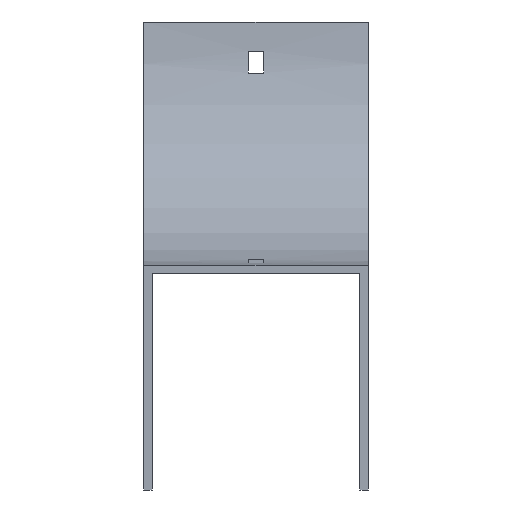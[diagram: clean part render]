
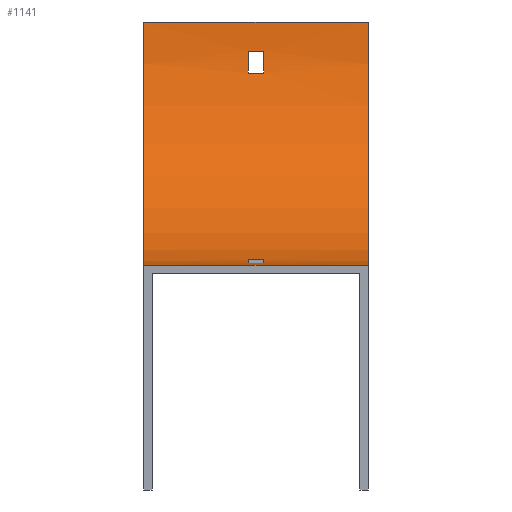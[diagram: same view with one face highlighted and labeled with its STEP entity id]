
A CAD part, front view. The second image highlights one B-rep face of the part: STEP entity #1141.
In plain terms, the highlighted cylindrical face has radius 100 mm (diameter 200 mm), a partial arc.
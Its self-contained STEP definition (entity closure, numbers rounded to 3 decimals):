
#9 = EDGE_LOOP ( 'NONE', ( #139, #1682, #656, #800 ) ) ;
#32 = CARTESIAN_POINT ( 'NONE',  ( -3.25, -100., 0. ) ) ;
#43 = ORIENTED_EDGE ( 'NONE', *, *, #1060, .T. ) ;
#115 = ORIENTED_EDGE ( 'NONE', *, *, #844, .F. ) ;
#139 = ORIENTED_EDGE ( 'NONE', *, *, #1472, .T. ) ;
#175 = DIRECTION ( 'NONE',  ( 0., 0., -1. ) ) ;
#183 = EDGE_CURVE ( 'NONE', #243, #921, #1309, .T. ) ;
#227 = VECTOR ( 'NONE', #932, 1000. ) ;
#243 = VERTEX_POINT ( 'NONE', #909 ) ;
#249 = DIRECTION ( 'NONE',  ( -1., 0., 0. ) ) ;
#272 = AXIS2_PLACEMENT_3D ( 'NONE', #733, #1662, #1249 ) ;
#282 = VERTEX_POINT ( 'NONE', #1193 ) ;
#299 = LINE ( 'NONE', #811, #1139 ) ;
#328 = CARTESIAN_POINT ( 'NONE',  ( 46.25, -79., -97.77 ) ) ;
#344 = VERTEX_POINT ( 'NONE', #1592 ) ;
#355 = CARTESIAN_POINT ( 'NONE',  ( 46.25, -100., 0. ) ) ;
#365 = CARTESIAN_POINT ( 'NONE',  ( 3.25, -88., -99.277 ) ) ;
#370 = CARTESIAN_POINT ( 'NONE',  ( -3.25, -0.723, -12. ) ) ;
#377 = VERTEX_POINT ( 'NONE', #1329 ) ;
#381 = LINE ( 'NONE', #765, #1658 ) ;
#395 = AXIS2_PLACEMENT_3D ( 'NONE', #1473, #1188, #1198 ) ;
#414 = VERTEX_POINT ( 'NONE', #537 ) ;
#439 = DIRECTION ( 'NONE',  ( -1., 0., 0. ) ) ;
#450 = CARTESIAN_POINT ( 'NONE',  ( 46.25, 0., 0. ) ) ;
#488 = FACE_BOUND ( 'NONE', #9, .T. ) ;
#537 = CARTESIAN_POINT ( 'NONE',  ( -46.25, -100., -100. ) ) ;
#556 = CARTESIAN_POINT ( 'NONE',  ( 46.25, -100., -100. ) ) ;
#557 = AXIS2_PLACEMENT_3D ( 'NONE', #668, #1351, #175 ) ;
#584 = VERTEX_POINT ( 'NONE', #370 ) ;
#604 = EDGE_CURVE ( 'NONE', #1518, #414, #381, .T. ) ;
#630 = DIRECTION ( 'NONE',  ( 1., 0., 0. ) ) ;
#656 = ORIENTED_EDGE ( 'NONE', *, *, #1493, .T. ) ;
#668 = CARTESIAN_POINT ( 'NONE',  ( 3.25, -100., 0. ) ) ;
#672 = ORIENTED_EDGE ( 'NONE', *, *, #183, .F. ) ;
#688 = LINE ( 'NONE', #1622, #227 ) ;
#733 = CARTESIAN_POINT ( 'NONE',  ( -46.25, -100., 0. ) ) ;
#753 = AXIS2_PLACEMENT_3D ( 'NONE', #1665, #249, #1674 ) ;
#765 = CARTESIAN_POINT ( 'NONE',  ( 46.25, -100., -100. ) ) ;
#782 = VECTOR ( 'NONE', #836, 1000. ) ;
#800 = ORIENTED_EDGE ( 'NONE', *, *, #1584, .T. ) ;
#810 = AXIS2_PLACEMENT_3D ( 'NONE', #1365, #630, #999 ) ;
#811 = CARTESIAN_POINT ( 'NONE',  ( 46.25, -2.23, -21. ) ) ;
#836 = DIRECTION ( 'NONE',  ( -1., 0., 0. ) ) ;
#844 = EDGE_CURVE ( 'NONE', #1315, #377, #1495, .T. ) ;
#846 = DIRECTION ( 'NONE',  ( 0., 1., 0. ) ) ;
#847 = CYLINDRICAL_SURFACE ( 'NONE', #753, 100. ) ;
#848 = EDGE_CURVE ( 'NONE', #921, #1315, #987, .T. ) ;
#867 = AXIS2_PLACEMENT_3D ( 'NONE', #355, #977, #1506 ) ;
#904 = VECTOR ( 'NONE', #1661, 1000. ) ;
#909 = CARTESIAN_POINT ( 'NONE',  ( -3.25, -88., -99.277 ) ) ;
#921 = VERTEX_POINT ( 'NONE', #365 ) ;
#932 = DIRECTION ( 'NONE',  ( 1., 0., 0. ) ) ;
#938 = CARTESIAN_POINT ( 'NONE',  ( 46.25, 0., 0. ) ) ;
#977 = DIRECTION ( 'NONE',  ( -1., 0., 0. ) ) ;
#987 = CIRCLE ( 'NONE', #810, 100. ) ;
#996 = CARTESIAN_POINT ( 'NONE',  ( -46.25, 0., 0. ) ) ;
#999 = DIRECTION ( 'NONE',  ( 0., -1., 0. ) ) ;
#1060 = EDGE_CURVE ( 'NONE', #1064, #414, #1100, .T. ) ;
#1064 = VERTEX_POINT ( 'NONE', #996 ) ;
#1073 = DIRECTION ( 'NONE',  ( -1., 0., 0. ) ) ;
#1100 = CIRCLE ( 'NONE', #272, 100. ) ;
#1122 = CARTESIAN_POINT ( 'NONE',  ( 46.25, -88., -99.277 ) ) ;
#1139 = VECTOR ( 'NONE', #1303, 1000. ) ;
#1141 = ADVANCED_FACE ( 'NONE', ( #1396, #488, #1251 ), #847, .F. ) ;
#1156 = ORIENTED_EDGE ( 'NONE', *, *, #1560, .T. ) ;
#1167 = CIRCLE ( 'NONE', #395, 100. ) ;
#1188 = DIRECTION ( 'NONE',  ( 1., 0., 0. ) ) ;
#1193 = CARTESIAN_POINT ( 'NONE',  ( 3.25, -0.723, -12. ) ) ;
#1198 = DIRECTION ( 'NONE',  ( 0., 0., 1. ) ) ;
#1199 = CARTESIAN_POINT ( 'NONE',  ( 3.25, -79., -97.77 ) ) ;
#1235 = ORIENTED_EDGE ( 'NONE', *, *, #848, .F. ) ;
#1237 = EDGE_LOOP ( 'NONE', ( #1634, #115, #1235, #672 ) ) ;
#1249 = DIRECTION ( 'NONE',  ( 0., 0., 1. ) ) ;
#1251 = FACE_BOUND ( 'NONE', #1237, .T. ) ;
#1289 = DIRECTION ( 'NONE',  ( -1., 0., 0. ) ) ;
#1303 = DIRECTION ( 'NONE',  ( -1., 0., 0. ) ) ;
#1309 = LINE ( 'NONE', #1122, #904 ) ;
#1315 = VERTEX_POINT ( 'NONE', #1199 ) ;
#1316 = CIRCLE ( 'NONE', #557, 100. ) ;
#1329 = CARTESIAN_POINT ( 'NONE',  ( -3.25, -79., -97.77 ) ) ;
#1351 = DIRECTION ( 'NONE',  ( -1., 0., 0. ) ) ;
#1355 = EDGE_LOOP ( 'NONE', ( #43, #1546, #1562, #1156 ) ) ;
#1365 = CARTESIAN_POINT ( 'NONE',  ( 3.25, -100., 0. ) ) ;
#1396 = FACE_OUTER_BOUND ( 'NONE', #1355, .T. ) ;
#1398 = VERTEX_POINT ( 'NONE', #1470 ) ;
#1457 = LINE ( 'NONE', #938, #1601 ) ;
#1470 = CARTESIAN_POINT ( 'NONE',  ( -3.25, -2.23, -21. ) ) ;
#1472 = EDGE_CURVE ( 'NONE', #344, #1398, #299, .T. ) ;
#1473 = CARTESIAN_POINT ( 'NONE',  ( -3.25, -100., 0. ) ) ;
#1493 = EDGE_CURVE ( 'NONE', #584, #282, #688, .T. ) ;
#1495 = LINE ( 'NONE', #328, #782 ) ;
#1499 = EDGE_CURVE ( 'NONE', #1398, #584, #1167, .T. ) ;
#1505 = AXIS2_PLACEMENT_3D ( 'NONE', #32, #439, #846 ) ;
#1506 = DIRECTION ( 'NONE',  ( 0., 0., 1. ) ) ;
#1518 = VERTEX_POINT ( 'NONE', #556 ) ;
#1546 = ORIENTED_EDGE ( 'NONE', *, *, #604, .F. ) ;
#1560 = EDGE_CURVE ( 'NONE', #1610, #1064, #1457, .T. ) ;
#1562 = ORIENTED_EDGE ( 'NONE', *, *, #1605, .F. ) ;
#1584 = EDGE_CURVE ( 'NONE', #282, #344, #1316, .T. ) ;
#1592 = CARTESIAN_POINT ( 'NONE',  ( 3.25, -2.23, -21. ) ) ;
#1601 = VECTOR ( 'NONE', #1073, 1000. ) ;
#1602 = EDGE_CURVE ( 'NONE', #377, #243, #1626, .T. ) ;
#1605 = EDGE_CURVE ( 'NONE', #1610, #1518, #1675, .T. ) ;
#1610 = VERTEX_POINT ( 'NONE', #450 ) ;
#1622 = CARTESIAN_POINT ( 'NONE',  ( 46.25, -0.723, -12. ) ) ;
#1626 = CIRCLE ( 'NONE', #1505, 100. ) ;
#1634 = ORIENTED_EDGE ( 'NONE', *, *, #1602, .F. ) ;
#1658 = VECTOR ( 'NONE', #1289, 1000. ) ;
#1661 = DIRECTION ( 'NONE',  ( 1., 0., 0. ) ) ;
#1662 = DIRECTION ( 'NONE',  ( -1., 0., 0. ) ) ;
#1665 = CARTESIAN_POINT ( 'NONE',  ( 46.25, -100., 0. ) ) ;
#1674 = DIRECTION ( 'NONE',  ( 0., 0., 1. ) ) ;
#1675 = CIRCLE ( 'NONE', #867, 100. ) ;
#1682 = ORIENTED_EDGE ( 'NONE', *, *, #1499, .T. ) ;
